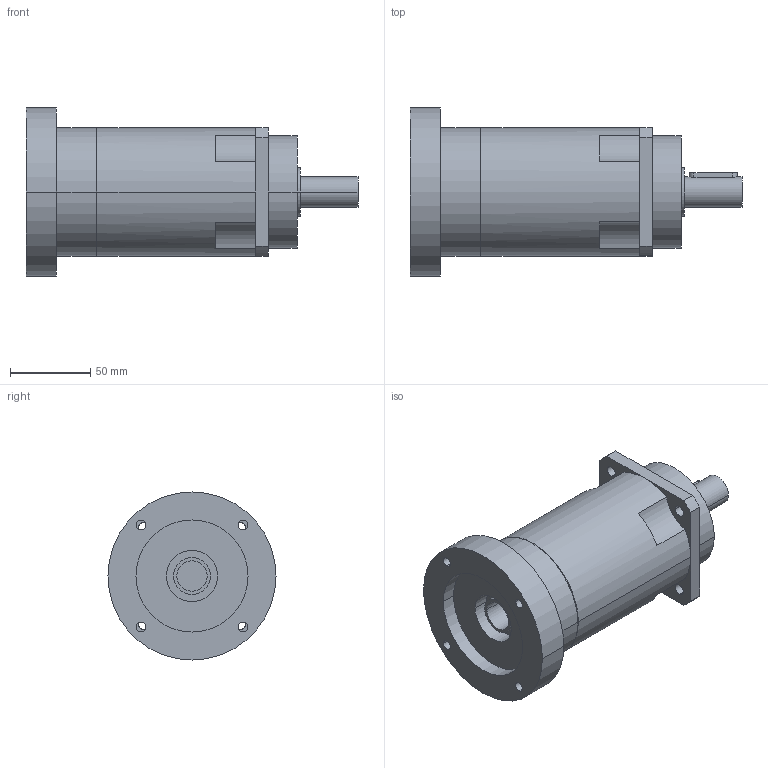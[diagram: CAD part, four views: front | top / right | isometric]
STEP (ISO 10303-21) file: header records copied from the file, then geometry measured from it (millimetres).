
FILE_DESCRIPTION(('CoCreate Modeling STEP Export'),'2;1');
FILE_NAME('GPR100_ig-48-64-80-100-120-144-180-216_19_B5_19_P14.stp','2014-08-26T11:56:54',(''),(''),'CoCreate Modeling STEP processor for AP214 (Solid Model)','CoCreate Modeling 16.00C 25-Feb-2009 (C) Parametric Technology GmbH','');
FILE_SCHEMA(('AUTOMOTIVE_DESIGN { 1 0 10303 214 1 1 1 1 }'));
Length unit declared in the file: millimetre
Products named in the file (2): GPR100_ig-48-64-80-100-120-144-180-216_19_B5_19_P14
Assembly tree (1 placements, depth 2):
  GPR100_ig-48-64-80-100-120-144-180-216_19_B5_19_P14
    GPR100_ig-48-64-80-100-120-144-180-216_19_B5_19_P14
Bounding box: 207.4 x 105 x 105 mm (x, y, z)
Volume: 858570.1 mm3; surface area: 74947.1 mm2
Topology: 1 solids, 1 shells, 92 faces, 257 edges, 179 vertices
Faces by surface type: cylinder 56, plane 30, cone 6
Entity records: 2640 total; most frequent: ORIENTED_EDGE 510, CARTESIAN_POINT 475, DIRECTION 376, EDGE_CURVE 255, VERTEX_POINT 179, AXIS2_PLACEMENT_3D 144, EDGE_LOOP 122, FACE_OUTER_BOUND 92
